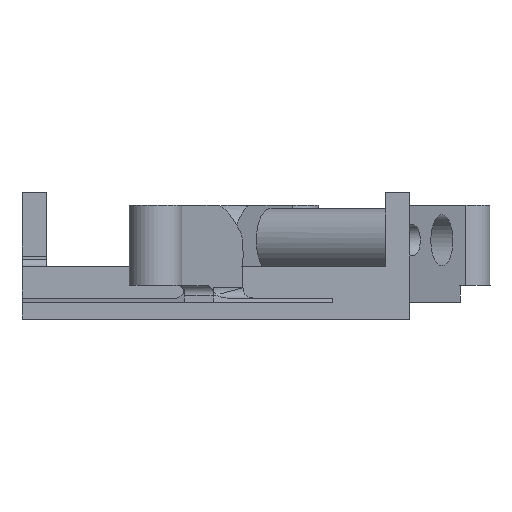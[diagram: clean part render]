
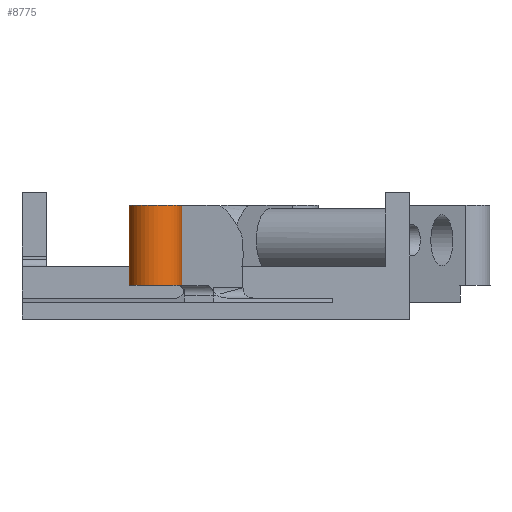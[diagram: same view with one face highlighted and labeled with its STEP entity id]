
A CAD part, left-side view. The second image highlights one B-rep face of the part: STEP entity #8775.
In plain terms, the highlighted cylindrical face has radius 2.5 mm (diameter 5 mm), a partial arc.
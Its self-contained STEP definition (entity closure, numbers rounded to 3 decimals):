
#237 = PLANE('',#238);
#238 = AXIS2_PLACEMENT_3D('',#239,#240,#241);
#239 = CARTESIAN_POINT('',(213.243,-8.856,5.973
    ));
#240 = DIRECTION('',(-0.561,-0.828,0.)
  );
#241 = DIRECTION('',(0.,0.,1.));
#658 = VERTEX_POINT('',#659);
#659 = CARTESIAN_POINT('',(207.069,-4.676,
    10.8));
#673 = PLANE('',#674);
#674 = AXIS2_PLACEMENT_3D('',#675,#676,#677);
#675 = CARTESIAN_POINT('',(205.57,-2.54,
    10.8));
#676 = DIRECTION('',(0.,0.,1.));
#677 = DIRECTION('',(0.,1.,0.));
#685 = EDGE_CURVE('',#658,#686,#688,.T.);
#686 = VERTEX_POINT('',#687);
#687 = CARTESIAN_POINT('',(207.069,-4.676,3.2
    ));
#688 = SURFACE_CURVE('',#689,(#693,#700),.PCURVE_S1.);
#689 = LINE('',#690,#691);
#690 = CARTESIAN_POINT('',(207.069,-4.676,
    10.8));
#691 = VECTOR('',#692,1.);
#692 = DIRECTION('',(0.,0.,-1.));
#693 = PCURVE('',#237,#694);
#694 = DEFINITIONAL_REPRESENTATION('',(#695),#699);
#695 = LINE('',#696,#697);
#696 = CARTESIAN_POINT('',(4.827,7.456));
#697 = VECTOR('',#698,1.);
#698 = DIRECTION('',(-1.,0.));
#699 = ( GEOMETRIC_REPRESENTATION_CONTEXT(2) 
PARAMETRIC_REPRESENTATION_CONTEXT() REPRESENTATION_CONTEXT('2D SPACE',''
  ) );
#700 = PCURVE('',#701,#706);
#701 = CYLINDRICAL_SURFACE('',#702,2.5);
#702 = AXIS2_PLACEMENT_3D('',#703,#704,#705);
#703 = CARTESIAN_POINT('',(205.682,-2.596,7.));
#704 = DIRECTION('',(0.,0.,1.));
#705 = DIRECTION('',(0.876,-0.482,0.));
#706 = DEFINITIONAL_REPRESENTATION('',(#707),#711);
#707 = LINE('',#708,#709);
#708 = CARTESIAN_POINT('',(5.803,3.8));
#709 = VECTOR('',#710,1.);
#710 = DIRECTION('',(0.,-1.));
#711 = ( GEOMETRIC_REPRESENTATION_CONTEXT(2) 
PARAMETRIC_REPRESENTATION_CONTEXT() REPRESENTATION_CONTEXT('2D SPACE',''
  ) );
#729 = PLANE('',#730);
#730 = AXIS2_PLACEMENT_3D('',#731,#732,#733);
#731 = CARTESIAN_POINT('',(205.557,-2.531,
    3.2));
#732 = DIRECTION('',(-0.,-0.,-1.));
#733 = DIRECTION('',(0.,-1.,0.));
#849 = PLANE('',#850);
#850 = AXIS2_PLACEMENT_3D('',#851,#852,#853);
#851 = CARTESIAN_POINT('',(213.208,-6.054,
    5.882));
#852 = DIRECTION('',(0.561,0.828,0.)
  );
#853 = DIRECTION('',(0.,0.,-1.));
#8488 = VERTEX_POINT('',#8489);
#8489 = CARTESIAN_POINT('',(208.181,-2.652,
    3.2));
#8509 = EDGE_CURVE('',#8510,#8488,#8512,.T.);
#8510 = VERTEX_POINT('',#8511);
#8511 = CARTESIAN_POINT('',(208.181,-2.652,
    10.8));
#8512 = SURFACE_CURVE('',#8513,(#8517,#8524),.PCURVE_S1.);
#8513 = LINE('',#8514,#8515);
#8514 = CARTESIAN_POINT('',(208.181,-2.652,
    10.8));
#8515 = VECTOR('',#8516,1.);
#8516 = DIRECTION('',(0.,0.,-1.));
#8517 = PCURVE('',#849,#8518);
#8518 = DEFINITIONAL_REPRESENTATION('',(#8519),#8523);
#8519 = LINE('',#8520,#8521);
#8520 = CARTESIAN_POINT('',(-4.918,6.07));
#8521 = VECTOR('',#8522,1.);
#8522 = DIRECTION('',(1.,0.));
#8523 = ( GEOMETRIC_REPRESENTATION_CONTEXT(2) 
PARAMETRIC_REPRESENTATION_CONTEXT() REPRESENTATION_CONTEXT('2D SPACE',''
  ) );
#8524 = PCURVE('',#701,#8525);
#8525 = DEFINITIONAL_REPRESENTATION('',(#8526),#8530);
#8526 = LINE('',#8527,#8528);
#8527 = CARTESIAN_POINT('',(0.48,3.8));
#8528 = VECTOR('',#8529,1.);
#8529 = DIRECTION('',(0.,-1.));
#8530 = ( GEOMETRIC_REPRESENTATION_CONTEXT(2) 
PARAMETRIC_REPRESENTATION_CONTEXT() REPRESENTATION_CONTEXT('2D SPACE',''
  ) );
#8666 = EDGE_CURVE('',#686,#8488,#8667,.T.);
#8667 = SURFACE_CURVE('',#8668,(#8673,#8680),.PCURVE_S1.);
#8668 = CIRCLE('',#8669,2.5);
#8669 = AXIS2_PLACEMENT_3D('',#8670,#8671,#8672);
#8670 = CARTESIAN_POINT('',(205.682,-2.596,
    3.2));
#8671 = DIRECTION('',(0.,-0.,-1.));
#8672 = DIRECTION('',(0.555,-0.832,0.));
#8673 = PCURVE('',#729,#8674);
#8674 = DEFINITIONAL_REPRESENTATION('',(#8675),#8679);
#8675 = CIRCLE('',#8676,2.5);
#8676 = AXIS2_PLACEMENT_2D('',#8677,#8678);
#8677 = CARTESIAN_POINT('',(0.065,-0.125));
#8678 = DIRECTION('',(0.832,-0.555));
#8679 = ( GEOMETRIC_REPRESENTATION_CONTEXT(2) 
PARAMETRIC_REPRESENTATION_CONTEXT() REPRESENTATION_CONTEXT('2D SPACE',''
  ) );
#8680 = PCURVE('',#701,#8681);
#8681 = DEFINITIONAL_REPRESENTATION('',(#8682),#8686);
#8682 = LINE('',#8683,#8684);
#8683 = CARTESIAN_POINT('',(5.803,-3.8));
#8684 = VECTOR('',#8685,1.);
#8685 = DIRECTION('',(-1.,0.));
#8686 = ( GEOMETRIC_REPRESENTATION_CONTEXT(2) 
PARAMETRIC_REPRESENTATION_CONTEXT() REPRESENTATION_CONTEXT('2D SPACE',''
  ) );
#8775 = ADVANCED_FACE('',(#8776),#701,.T.);
#8776 = FACE_BOUND('',#8777,.T.);
#8777 = EDGE_LOOP('',(#8778,#8779,#8780,#8781));
#8778 = ORIENTED_EDGE('',*,*,#8509,.T.);
#8779 = ORIENTED_EDGE('',*,*,#8666,.F.);
#8780 = ORIENTED_EDGE('',*,*,#685,.F.);
#8781 = ORIENTED_EDGE('',*,*,#8782,.F.);
#8782 = EDGE_CURVE('',#8510,#658,#8783,.T.);
#8783 = SURFACE_CURVE('',#8784,(#8789,#8796),.PCURVE_S1.);
#8784 = CIRCLE('',#8785,2.5);
#8785 = AXIS2_PLACEMENT_3D('',#8786,#8787,#8788);
#8786 = CARTESIAN_POINT('',(205.682,-2.596,
    10.8));
#8787 = DIRECTION('',(0.,0.,1.));
#8788 = DIRECTION('',(1.,-0.022,0.));
#8789 = PCURVE('',#701,#8790);
#8790 = DEFINITIONAL_REPRESENTATION('',(#8791),#8795);
#8791 = LINE('',#8792,#8793);
#8792 = CARTESIAN_POINT('',(0.48,3.8));
#8793 = VECTOR('',#8794,1.);
#8794 = DIRECTION('',(1.,0.));
#8795 = ( GEOMETRIC_REPRESENTATION_CONTEXT(2) 
PARAMETRIC_REPRESENTATION_CONTEXT() REPRESENTATION_CONTEXT('2D SPACE',''
  ) );
#8796 = PCURVE('',#673,#8797);
#8797 = DEFINITIONAL_REPRESENTATION('',(#8798),#8802);
#8798 = CIRCLE('',#8799,2.5);
#8799 = AXIS2_PLACEMENT_2D('',#8800,#8801);
#8800 = CARTESIAN_POINT('',(-0.056,-0.112));
#8801 = DIRECTION('',(-0.022,-1.));
#8802 = ( GEOMETRIC_REPRESENTATION_CONTEXT(2) 
PARAMETRIC_REPRESENTATION_CONTEXT() REPRESENTATION_CONTEXT('2D SPACE',''
  ) );
